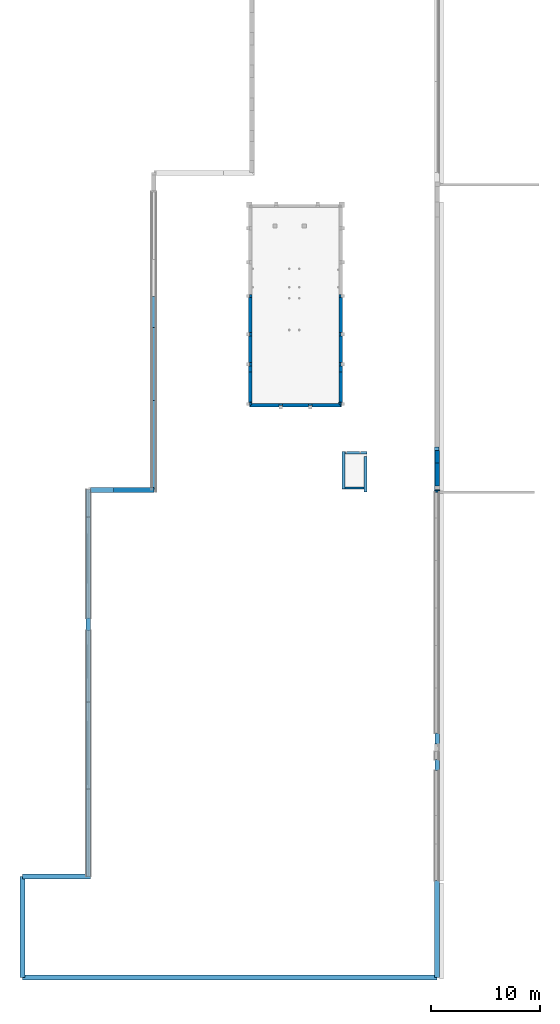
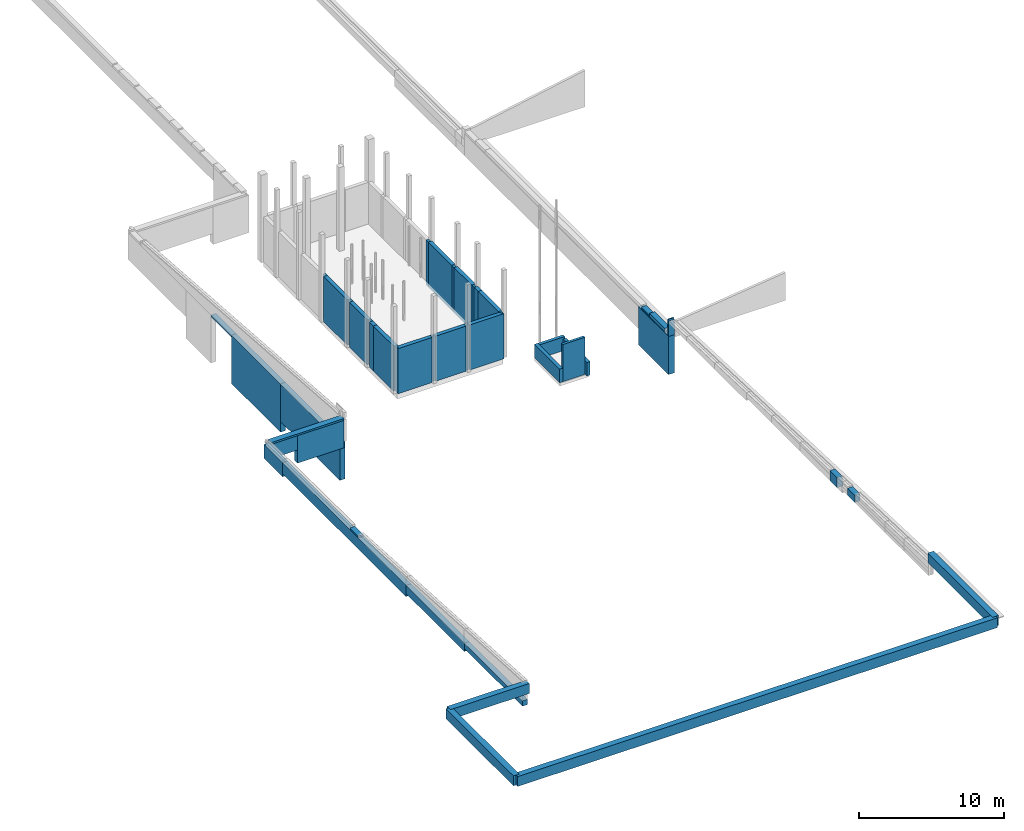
# One storey, part 2 of 17: 47 walls.
"""IFC2X3 building model written with IfcOpenShell, lengths in millimetres."""

from ifc_helpers import new_model, entity, si_unit, converted_unit, derived_unit, money_unit, direction, frame, origin_with_axes, place, context, subcontext, project, spatial, polyline, outline, extrude, material, layer, layer_set, layer_usage, type_object, element, save


model = new_model("IFC2X3")

# Units and contexts
model_context = context("Model", 3, precision=0.01, world=origin_with_axes(), true_north=direction((0.0, 1.0)))
body_context = subcontext(model_context, "Body", "Model", "MODEL_VIEW")
ifc_project = project(units=[si_unit("LENGTHUNIT", "METRE", prefix="MILLI"), si_unit("AREAUNIT", "SQUARE_METRE"), si_unit("VOLUMEUNIT", "CUBIC_METRE"), converted_unit("PLANEANGLEUNIT", "DEGREE", entity("IfcPlaneAngleMeasure", 0.0174532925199), si_unit("PLANEANGLEUNIT", "RADIAN"), dimensions=[0, 0, 0, 0, 0, 0, 0]), si_unit("SOLIDANGLEUNIT", "STERADIAN"), money_unit("EUR"), converted_unit("TIMEUNIT", "Year", entity("IfcTimeMeasure", 31556926.0), si_unit("TIMEUNIT", "SECOND"), dimensions=[0, 0, 1, 0, 0, 0, 0]), si_unit("MASSUNIT", "GRAM", prefix="KILO"), si_unit("THERMODYNAMICTEMPERATUREUNIT", "DEGREE_CELSIUS"), si_unit("LUMINOUSINTENSITYUNIT", "LUMEN"), si_unit("ENERGYUNIT", "JOULE", prefix="MEGA"), derived_unit("THERMALCONDUCTANCEUNIT", [(si_unit("POWERUNIT", "WATT"), 1), (si_unit("LENGTHUNIT", "METRE"), -1), (si_unit("THERMODYNAMICTEMPERATUREUNIT", "KELVIN"), -1)]), derived_unit("SPECIFICHEATCAPACITYUNIT", [(si_unit("ENERGYUNIT", "JOULE"), 1), (si_unit("MASSUNIT", "GRAM", prefix="KILO"), -1), (si_unit("THERMODYNAMICTEMPERATUREUNIT", "KELVIN"), -1)]), derived_unit("MASSDENSITYUNIT", [(si_unit("MASSUNIT", "GRAM", prefix="KILO"), 1), (si_unit("VOLUMEUNIT", "CUBIC_METRE"), -1)])], contexts=[model_context])

# Site, building, storey
site_placement = place(None, origin_with_axes())
site = spatial("IfcSite", under=ifc_project, at=site_placement, Name="Puškini 31, Narva", CompositionType="ELEMENT")
building_placement = place(site_placement, origin_with_axes())
building = spatial("IfcBuilding", under=site, at=building_placement, Name="Narva Riigigümnaasium", CompositionType="ELEMENT")
storey_placement = place(building_placement, frame((0.0, 0.0, -6800.0), z_axis=(0.0, 0.0, 1.0), x_axis=(1.0, 0.0, 0.0)))
storey = spatial("IfcBuildingStorey", under=building, at=storey_placement, Name="0.korrus -6.8", CompositionType="ELEMENT", Elevation=-6800.0)

# Walls
ifc_material_1 = material(Name="fassaadiplaat")
ifc_layer_1 = layer(ifc_material_1, 8.0, ventilated="UNKNOWN")
ifc_material_2 = material(Name="Salto-roovitus")
ifc_layer_2 = layer(ifc_material_2, 50.0, ventilated="UNKNOWN")
ifc_material_3 = material(Name="Salto-PIR soojustus")
ifc_layer_3 = layer(ifc_material_3, 50.0, ventilated="UNKNOWN")
ifc_layer_4 = layer(ifc_material_3, 150.0, ventilated="UNKNOWN")
ifc_material_4 = material(Name="Betoon element")
ifc_layer_5 = layer(ifc_material_4, 200.0, ventilated="UNKNOWN")
ifc_material_5 = material(Name="Salto-siseviimistlus-seinad")
ifc_layer_6 = layer(ifc_material_5, 10.0, ventilated="UNKNOWN")
ifc_layer_set_1 = layer_set([ifc_layer_1, ifc_layer_2, ifc_layer_3, ifc_layer_4, ifc_layer_5, ifc_layer_6], Name="G-VS-01")
ifc_layer_usage_1 = layer_usage(ifc_layer_set_1, "AXIS2", "NEGATIVE", 258.0)
wall_type_1 = type_object("IfcWallType", Name="G-VS-01 468", PredefinedType="NOTDEFINED")
wall_1_placement = place(storey_placement, frame((54200.000001, 194900.0, 3636.93976611), z_axis=(0.0, 0.0, 1.0), x_axis=(0.0, -1.0, 0.0)))
element("IfcWallStandardCase", 1, at=wall_1_placement, inside=storey, type_object=wall_type_1, material=ifc_layer_usage_1, Name="Sisesein", context=body_context, shape_type="SweptSolid", body=[
    extrude(outline(polyline([(0.0, -210.0), (85.0000008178, -210.0), (85.0000008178, 258.0), (0.0, 258.0), (0.0, -210.0)])), origin_with_axes(), (0.0, 0.0, 1.0), 1014.88228106),
])
ifc_layer_set_2 = layer_set([ifc_layer_5], Name="G-SS-01")
ifc_layer_usage_2 = layer_usage(ifc_layer_set_2, "AXIS2", "NEGATIVE", 0.0)
wall_type_2 = type_object("IfcWallType", Name="G-SS-01 200", PredefinedType="NOTDEFINED")
wall_2_placement = place(storey_placement, frame((40000.0000356, 202599.999952, -290.0), z_axis=(0.0, 0.0, 1.0), x_axis=(-1.0, 0.0, 0.0)))
element("IfcWallStandardCase", 2, at=wall_2_placement, inside=storey, type_object=wall_type_2, material=ifc_layer_usage_2, Name="Sisesein", context=body_context, shape_type="SweptSolid", body=[
    extrude(outline(polyline([(9.22071308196e-07, -200.0), (300.000033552, -200.0), (300.000033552, 0.0), (0.0, 0.0), (9.22071308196e-07, -200.0)])), origin_with_axes(), (0.0, 0.0, 1.0), 3790.0),
])
wall_3_placement = place(storey_placement, frame((42700.0000365, 202599.999974, -290.0), z_axis=(0.0, 0.0, 1.0), x_axis=(-1.0, 0.0, 0.0)))
element("IfcWallStandardCase", 3, at=wall_3_placement, inside=storey, type_object=wall_type_2, material=ifc_layer_usage_2, Name="Sisesein", context=body_context, shape_type="SweptSolid", body=[
    extrude(outline(polyline([(1.24511245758e-06, -200.0), (300.000044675, -200.0), (300.000043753, 0.0), (0.0, 0.0), (1.24511245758e-06, -200.0)])), origin_with_axes(), (0.0, 0.0, 1.0), 3790.0),
])
wall_4_placement = place(storey_placement, frame((45400.0000848, 212829.999926, -290.0), z_axis=(0.0, 0.0, 1.0), x_axis=(0.0, -1.0, 0.0)))
element("IfcWallStandardCase", 4, at=wall_4_placement, inside=storey, type_object=wall_type_2, material=ifc_layer_usage_2, Name="Sisesein", context=body_context, shape_type="SweptSolid", body=[
    extrude(outline(polyline([(0.0, -200.0), (299.999883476, -200.0), (299.999883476, 0.0), (0.0, 0.0), (0.0, -200.0)])), origin_with_axes(), (0.0, 0.0, 1.0), 3790.0),
])
wall_5_placement = place(storey_placement, frame((45400.0000848, 209299.999962, -290.0), z_axis=(0.0, 0.0, 1.0), x_axis=(0.0, -1.0, 0.0)))
element("IfcWallStandardCase", 5, at=wall_5_placement, inside=storey, type_object=wall_type_2, material=ifc_layer_usage_2, Name="Sisesein", context=body_context, shape_type="SweptSolid", body=[
    extrude(outline(polyline([(0.0, -200.0), (299.999998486, -200.0), (300.00000051, 0.0), (0.0, 0.0), (0.0, -200.0)])), origin_with_axes(), (0.0, 0.0, 1.0), 3790.0),
])
wall_6_placement = place(storey_placement, frame((45400.0000352, 206550.000007, -290.0), z_axis=(0.0, 0.0, 1.0), x_axis=(-1.12836302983e-08, -1.0, 0.0)))
element("IfcWallStandardCase", 6, at=wall_6_placement, inside=storey, type_object=wall_type_2, material=ifc_layer_usage_2, Name="Sisesein", context=body_context, shape_type="SweptSolid", body=[
    extrude(outline(polyline([(-8.95454377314e-07, -200.0), (300.000038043, -200.0), (300.000040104, 0.0), (0.0, 0.0), (-8.95454377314e-07, -200.0)])), origin_with_axes(), (0.0, 0.0, 1.0), 3790.0),
])
for number, where, z_axis, x_axis in (
    (7, (37000.0063704, 212530.000218, -290.0), (0.0, 0.0, 1.0), (-7.28230820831e-07, 1.0, 0.0)),
    (8, (37000.008941, 209000.000218, -290.0), (0.0, 0.0, 1.0), (-7.28230844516e-07, 1.0, 0.0)),
):
    element("IfcWallStandardCase", number, at=place(storey_placement, frame(where, z_axis=z_axis, x_axis=x_axis)), inside=storey, type_object=wall_type_2, material=ifc_layer_usage_2, Name="Sisesein", context=body_context, shape_type="SweptSolid", body=[
        extrude(outline(polyline([(0.0, -200.0), (300.0, -200.0), (300.0, 0.0), (0.0, 0.0), (0.0, -200.0)])), origin_with_axes(), (0.0, 0.0, 1.0), 3790.0),
    ])
wall_7_placement = place(storey_placement, frame((37000.0109437, 206250.000114, -290.0), z_axis=(0.0, 0.0, 1.0), x_axis=(-7.28230847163e-07, 1.0, 0.0)))
element("IfcWallStandardCase", 9, at=wall_7_placement, inside=storey, type_object=wall_type_2, material=ifc_layer_usage_2, Name="Sisesein", context=body_context, shape_type="SweptSolid", body=[
    extrude(outline(polyline([(0.0, -200.0), (299.999979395, -200.0), (299.999979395, 0.0), (0.0, 0.0), (0.0, -200.0)])), origin_with_axes(), (0.0, 0.0, 1.0), 3790.0),
])
wall_8_placement = place(storey_placement, frame((45399.9999996, 202900.000009, -290.0), z_axis=(0.0, 0.0, 1.0), x_axis=(0.0, -1.0, 0.0)))
element("IfcWallStandardCase", 10, at=wall_8_placement, inside=storey, type_object=wall_type_2, material=ifc_layer_usage_2, Name="Sisesein", context=body_context, shape_type="SweptSolid", body=[
    extrude(outline(polyline([(-5.22987875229e-07, -200.0), (100.000004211, -200.0), (400.000001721, 0.0), (0.0, 0.0), (-5.22987875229e-07, -200.0)])), origin_with_axes(), (0.0, 0.0, 1.0), 3790.0),
])
wall_9_placement = place(storey_placement, frame((37000.0136017, 202599.999808, -290.0), z_axis=(0.0, 0.0, 1.0), x_axis=(0.0, 1.0, 0.0)))
element("IfcWallStandardCase", 11, at=wall_9_placement, inside=storey, type_object=wall_type_2, material=ifc_layer_usage_2, Name="Sisesein", context=body_context, shape_type="SweptSolid", body=[
    extrude(outline(polyline([(200.000143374, -200.0), (300.000265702, -200.0), (300.000185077, 0.0), (-99.9998566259, 0.0), (200.000143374, -200.0)])), origin_with_axes(), (0.0, 0.0, 1.0), 3790.0),
])
ifc_material_6 = material(Name="Soojustus - EPS")
ifc_layer_7 = layer(ifc_material_6, 100.0, ventilated="UNKNOWN")
ifc_material_7 = material(Name="Salto-siseviimistlus")
ifc_layer_8 = layer(ifc_material_7, 0.0, ventilated="UNKNOWN")
ifc_layer_set_3 = layer_set([ifc_layer_7, ifc_layer_5, ifc_layer_8], Name="G-VS-09")
ifc_layer_usage_3 = layer_usage(ifc_layer_set_3, "AXIS2", "NEGATIVE", 100.0)
wall_type_3 = type_object("IfcWallType", Name="G-VS-09 300", PredefinedType="NOTDEFINED")
wall_10_placement = place(storey_placement, frame((39700.000002, 202599.999952, -290.0), z_axis=(0.0, 0.0, 1.0), x_axis=(-1.0, 0.0, 0.0)))
element("IfcWallStandardCase", 12, at=wall_10_placement, inside=storey, type_object=wall_type_3, material=ifc_layer_usage_3, Name="Sisesein", context=body_context, shape_type="SweptSolid", body=[
    extrude(outline(polyline([(0.0, -200.0), (2499.98640032, -200.0), (2699.98640032, 100.0), (0.0, 100.0), (0.0, -200.0)])), origin_with_axes(), (0.0, 0.0, 1.0), 3790.0),
])
wall_11_placement = place(storey_placement, frame((45399.9999995, 202600.000007, -290.0), z_axis=(0.0, 0.0, 1.0), x_axis=(-1.0, -1.2451077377e-08, 0.0)))
element("IfcWallStandardCase", 13, at=wall_11_placement, inside=storey, type_object=wall_type_3, material=ifc_layer_usage_3, Name="Sisesein", context=body_context, shape_type="SweptSolid", body=[
    extrude(outline(polyline([(199.999997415, -200.0), (2699.99996174, -200.0), (2699.99996361, 100.0), (1.15051790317e-06, 100.0), (199.999997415, -200.0)])), origin_with_axes(), (0.0, 0.0, 1.0), 3790.0),
])
wall_12_placement = place(storey_placement, frame((42399.9999928, 202599.999974, -290.0), z_axis=(0.0, 0.0, 1.0), x_axis=(-1.0, -9.2206777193e-09, 0.0)))
element("IfcWallStandardCase", 14, at=wall_12_placement, inside=storey, type_object=wall_type_3, material=ifc_layer_usage_3, Name="Sisesein", context=body_context, shape_type="SweptSolid", body=[
    extrude(outline(polyline([(-9.22071308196e-07, -200.0), (2399.99995627, -200.0), (2399.99995765, 100.0), (4.61035654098e-07, 100.0), (-9.22071308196e-07, -200.0)])), origin_with_axes(), (0.0, 0.0, 1.0), 3790.0),
])
wall_13_placement = place(storey_placement, frame((45400.0000848, 212530.000043, -290.0), z_axis=(0.0, 0.0, 1.0), x_axis=(0.0, -1.0, 0.0)))
element("IfcWallStandardCase", 15, at=wall_13_placement, inside=storey, type_object=wall_type_3, material=ifc_layer_usage_3, Name="Sisesein", context=body_context, shape_type="SweptSolid", body=[
    extrude(outline(polyline([(0.0, -200.0), (3230.00008038, -200.0), (3230.00008038, 100.0), (0.0, 100.0), (0.0, -200.0)])), origin_with_axes(), (0.0, 0.0, 1.0), 3790.0),
])
wall_14_placement = place(storey_placement, frame((45400.0000848, 208999.999962, -290.0), z_axis=(0.0, 0.0, 1.0), x_axis=(-2.02386385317e-08, -1.0, 0.0)))
element("IfcWallStandardCase", 16, at=wall_14_placement, inside=storey, type_object=wall_type_3, material=ifc_layer_usage_3, Name="Sisesein", context=body_context, shape_type="SweptSolid", body=[
    extrude(outline(polyline([(2.02382466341e-06, -200.0), (2449.99995562, -200.0), (2449.99995428, 100.0), (-1.01195496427e-06, 100.0), (2.02382466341e-06, -200.0)])), origin_with_axes(), (0.0, 0.0, 1.0), 3790.0),
])
wall_15_placement = place(storey_placement, frame((45400.0000318, 206249.999967, -290.0), z_axis=(0.0, 0.0, 1.0), x_axis=(-3.18963700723e-08, -1.0, 0.0)))
element("IfcWallStandardCase", 17, at=wall_15_placement, inside=storey, type_object=wall_type_3, material=ifc_layer_usage_3, Name="Sisesein", context=body_context, shape_type="SweptSolid", body=[
    extrude(outline(polyline([(2.06125605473e-06, -200.0), (549.999945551, -200.0), (549.999941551, 100.0), (-1.03065644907e-06, 100.0), (2.06125605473e-06, -200.0)])), origin_with_axes(), (0.0, 0.0, 1.0), 3790.0),
])
wall_16_placement = place(storey_placement, frame((37000.0087226, 209300.000218, -290.0), z_axis=(0.0, 0.0, 1.0), x_axis=(-7.28230821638e-07, 1.0, 0.0)))
element("IfcWallStandardCase", 18, at=wall_16_placement, inside=storey, type_object=wall_type_3, material=ifc_layer_usage_3, Name="Sisesein", context=body_context, shape_type="SweptSolid", body=[
    extrude(outline(polyline([(0.0, -200.0), (3230.0, -200.0), (3230.0, 100.0), (0.0, 100.0), (0.0, -200.0)])), origin_with_axes(), (0.0, 0.0, 1.0), 3790.0),
])
wall_17_placement = place(storey_placement, frame((37000.0107252, 206550.000093, -290.0), z_axis=(0.0, 0.0, 1.0), x_axis=(-7.28230844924e-07, 1.0, 0.0)))
element("IfcWallStandardCase", 19, at=wall_17_placement, inside=storey, type_object=wall_type_3, material=ifc_layer_usage_3, Name="Sisesein", context=body_context, shape_type="SweptSolid", body=[
    extrude(outline(polyline([(0.0, -200.0), (2450.00012547, -200.0), (2450.00012547, 100.0), (0.0, 100.0), (0.0, -200.0)])), origin_with_axes(), (0.0, 0.0, 1.0), 3790.0),
])
wall_18_placement = place(storey_placement, frame((37000.0136017, 202899.999993, -290.0), z_axis=(0.0, 0.0, 1.0), x_axis=(-8.06255612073e-07, 1.0, 0.0)))
element("IfcWallStandardCase", 20, at=wall_18_placement, inside=storey, type_object=wall_type_3, material=ifc_layer_usage_3, Name="Sisesein", context=body_context, shape_type="SweptSolid", body=[
    extrude(outline(polyline([(-8.06255684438e-05, -200.0), (2800.00002319, -200.0), (2800.00003489, 100.0), (4.03127558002e-05, 100.0), (-8.06255684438e-05, -200.0)])), origin_with_axes(), (0.0, 0.0, 1.0), 3790.0),
])
wall_19_placement = place(storey_placement, frame((37000.0113442, 205700.000024, -290.0), z_axis=(0.0, 0.0, 1.0), x_axis=(-7.28230842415e-07, 1.0, 0.0)))
element("IfcWallStandardCase", 21, at=wall_19_placement, inside=storey, type_object=wall_type_3, material=ifc_layer_usage_3, Name="Sisesein", context=body_context, shape_type="SweptSolid", body=[
    extrude(outline(polyline([(7.80246978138e-06, -200.0), (550.0000894, -200.0), (550.0000894, 100.0), (-3.90122067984e-06, 100.0), (7.80246978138e-06, -200.0)])), origin_with_axes(), (0.0, 0.0, 1.0), 3790.0),
])
wall_20_placement = place(storey_placement, frame((45400.0000143, 205700.000024, -290.0), z_axis=(0.0, 0.0, 1.0), x_axis=(-5.22976706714e-09, -1.0, 0.0)))
element("IfcWallStandardCase", 22, at=wall_20_placement, inside=storey, type_object=wall_type_3, material=ifc_layer_usage_3, Name="Sisesein", context=body_context, shape_type="SweptSolid", body=[
    extrude(outline(polyline([(-2.66661004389e-06, -200.0), (2800.00001575, -200.0), (2800.00001496, 100.0), (1.33337607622e-06, 100.0), (-2.66661004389e-06, -200.0)])), origin_with_axes(), (0.0, 0.0, 1.0), 3790.0),
])
ifc_material_8 = material(Name="Krohv")
ifc_layer_9 = layer(ifc_material_8, 10.0, ventilated="UNKNOWN")
ifc_layer_10 = layer(ifc_material_7, 10.0, ventilated="UNKNOWN")
ifc_layer_set_4 = layer_set([ifc_layer_9, ifc_layer_3, ifc_layer_4, ifc_layer_5, ifc_layer_10], Name="G-VS-02")
ifc_layer_usage_4 = layer_usage(ifc_layer_set_4, "AXIS2", "NEGATIVE", 210.0)
wall_type_4 = type_object("IfcWallType", Name="G-VS-02 420", PredefinedType="NOTDEFINED")
wall_21_placement = place(storey_placement, frame((54200.000001, 197361.868797, 3350.0), z_axis=(0.0, 0.0, 1.0), x_axis=(0.0, -1.0, 0.0)))
element("IfcWallStandardCase", 23, at=wall_21_placement, inside=storey, type_object=wall_type_4, material=ifc_layer_usage_4, Name="Sisesein", context=body_context, shape_type="SweptSolid", body=[
    extrude(outline(polyline([(0.0, -210.0), (2110.86879696, -210.0), (2110.86879696, 210.0), (0.0, 210.0), (0.0, -210.0)])), origin_with_axes(), (0.0, 0.0, 1.0), 286.939766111),
])
wall_22_placement = place(storey_placement, frame((54200.000001, 198473.510035, 3350.0), z_axis=(0.0, 0.0, 1.0), x_axis=(0.0, -1.0, 0.0)))
element("IfcWallStandardCase", 24, at=wall_22_placement, inside=storey, type_object=wall_type_4, material=ifc_layer_usage_4, Name="Sisesein", context=body_context, shape_type="SweptSolid", body=[
    extrude(outline(polyline([(0.0, -210.0), (1111.64123724, -210.0), (1111.64123724, 210.0), (0.0, 210.0), (0.0, -210.0)])), origin_with_axes(), (0.0, 0.0, 1.0), 150.0),
])
wall_23_placement = place(storey_placement, frame((54200.000001, 170110.151272, 4880.0), z_axis=(0.0, 0.0, 1.0), x_axis=(0.0, -1.0, 0.0)))
element("IfcWallStandardCase", 25, at=wall_23_placement, inside=storey, type_object=wall_type_4, material=ifc_layer_usage_4, Name="Sisesein", context=body_context, shape_type="SweptSolid", body=[
    extrude(outline(polyline([(0.0, -210.0), (1000.0, -210.0), (1000.0, 210.0), (0.0, 210.0), (0.0, -210.0)])), origin_with_axes(), (0.0, 0.0, 1.0), 600.0),
])
wall_24_placement = place(storey_placement, frame((54200.000001, 172560.151272, 4630.0), z_axis=(0.0, 0.0, 1.0), x_axis=(0.0, -1.0, 0.0)))
element("IfcWallStandardCase", 26, at=wall_24_placement, inside=storey, type_object=wall_type_4, material=ifc_layer_usage_4, Name="Sisesein", context=body_context, shape_type="SweptSolid", body=[
    extrude(outline(polyline([(0.0, -210.0), (1000.0, -210.0), (1000.0, 210.0), (0.0, 210.0), (0.0, -210.0)])), origin_with_axes(), (0.0, 0.0, 1.0), 850.0),
])
wall_25_placement = place(storey_placement, frame((22199.9999985, 181960.149991, 5330.0), z_axis=(0.0, 0.0, 1.0), x_axis=(0.0, 1.0, 0.0)))
element("IfcWallStandardCase", 27, at=wall_25_placement, inside=storey, type_object=wall_type_4, material=ifc_layer_usage_4, Name="Sisesein", context=body_context, shape_type="SweptSolid", body=[
    extrude(outline(polyline([(0.0, -210.0), (1150.0, -210.0), (1150.0, 210.0), (0.0, 210.0), (0.0, -210.0)])), origin_with_axes(), (0.0, 0.0, 1.0), 140.0),
])
ifc_material_9 = material(Name="Betoon_1")
ifc_layer_11 = layer(ifc_material_9, 250.0, ventilated="UNKNOWN")
ifc_layer_set_5 = layer_set([ifc_layer_9, ifc_layer_3, ifc_layer_4, ifc_layer_11, ifc_layer_8], Name="G-VS-05")
ifc_layer_usage_5 = layer_usage(ifc_layer_set_5, "AXIS2", "NEGATIVE", 210.0)
wall_type_5 = type_object("IfcWallType", Name="G-VS-05 460", PredefinedType="NOTDEFINED")
wall_26_placement = place(storey_placement, frame((54200.000001, 194815.0, 3350.0), z_axis=(0.0, 0.0, 1.0), x_axis=(0.0, -1.0, 0.0)))
element("IfcWallStandardCase", 28, at=wall_26_placement, inside=storey, type_object=wall_type_5, material=ifc_layer_usage_5, Name="Sisesein", context=body_context, shape_type="SweptSolid", body=[
    extrude(outline(polyline([(0.0, -250.0), (164.999999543, -250.0), (164.999999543, 210.0), (0.0, 210.0), (0.0, -250.0)])), origin_with_axes(), (0.0, 0.0, 1.0), 1301.82204717),
])
ifc_layer_usage_6 = layer_usage(ifc_layer_set_5, "AXIS2", "POSITIVE", -210.0)
wall_27_placement = place(storey_placement, frame((28200.0401775, 194900.0, 5330.0), z_axis=(0.0, 0.0, 1.0), x_axis=(-1.0, 0.0, 0.0)))
element("IfcWallStandardCase", 29, at=wall_27_placement, inside=storey, type_object=wall_type_5, material=ifc_layer_usage_6, Name="Sisesein", context=body_context, shape_type="SweptSolid", body=[
    extrude(outline(polyline([(0.0, -210.0), (5790.04017905, -210.0), (5790.04017905, 250.0), (0.0, 250.0), (0.0, -210.0)])), origin_with_axes(), (0.0, 0.0, 1.0), 150.0),
])
wall_28_placement = place(storey_placement, frame((54200.000001, 159000.0, 5970.0), z_axis=(0.0, 0.0, 1.0), x_axis=(0.0, -1.0, 0.0)))
element("IfcWallStandardCase", 30, at=wall_28_placement, inside=storey, type_object=wall_type_5, material=ifc_layer_usage_5, Name="Sisesein", context=body_context, shape_type="SweptSolid", body=[
    extrude(outline(polyline([(0.0, -250.0), (8899.99999997, -250.0), (8899.99999997, 210.0), (0.0, 210.0), (0.0, -250.0)])), origin_with_axes(), (0.0, 0.0, 1.0), 830.0),
])
wall_29_placement = place(storey_placement, frame((16130.0, 150100.0, 5970.0), z_axis=(0.0, 0.0, 1.0), x_axis=(1.0, 0.0, 0.0)))
element("IfcWallStandardCase", 31, at=wall_29_placement, inside=storey, type_object=wall_type_5, material=ifc_layer_usage_6, Name="Sisesein", context=body_context, shape_type="SweptSolid", body=[
    extrude(outline(polyline([(0.0, -210.0), (38070.0, -210.0), (38070.0, 250.0), (0.0, 250.0), (0.0, -210.0)])), origin_with_axes(), (0.0, 0.0, 1.0), 830.0),
])
wall_30_placement = place(storey_placement, frame((16130.0, 159400.0, 5970.0), z_axis=(0.0, 0.0, 1.0), x_axis=(0.0, -1.0, 0.0)))
element("IfcWallStandardCase", 32, at=wall_30_placement, inside=storey, type_object=wall_type_5, material=ifc_layer_usage_6, Name="Sisesein", context=body_context, shape_type="SweptSolid", body=[
    extrude(outline(polyline([(0.0, -210.0), (9300.0, -210.0), (9300.0, 250.0), (0.0, 250.0), (0.0, -210.0)])), origin_with_axes(), (0.0, 0.0, 1.0), 830.0),
])
wall_31_placement = place(storey_placement, frame((22399.9999985, 159400.0, 5970.0), z_axis=(0.0, 0.0, 1.0), x_axis=(-1.0, 0.0, 0.0)))
element("IfcWallStandardCase", 33, at=wall_31_placement, inside=storey, type_object=wall_type_5, material=ifc_layer_usage_6, Name="Sisesein", context=body_context, shape_type="SweptSolid", body=[
    extrude(outline(polyline([(0.0, -210.0), (6269.99999845, -210.0), (6269.99999845, 250.0), (0.0, 250.0), (0.0, -210.0)])), origin_with_axes(), (0.0, 0.0, 1.0), 830.0),
])
ifc_layer_12 = layer(ifc_material_3, 200.0, ventilated="UNKNOWN")
ifc_layer_13 = layer(ifc_material_9, 200.0, ventilated="UNKNOWN")
ifc_layer_set_6 = layer_set([ifc_layer_12, ifc_layer_13, ifc_layer_8], Name="G-VS-07")
ifc_layer_usage_7 = layer_usage(ifc_layer_set_6, "AXIS2", "POSITIVE", -200.0)
wall_type_6 = type_object("IfcWallType", Name="G-VS-07 400", PredefinedType="NOTDEFINED")
wall_32_placement = place(storey_placement, frame((22200.0, 175400.0, 4630.0), z_axis=(0.0, 0.0, 1.0), x_axis=(0.0, -1.0, 0.0)))
element("IfcWallStandardCase", 34, at=wall_32_placement, inside=storey, type_object=wall_type_6, material=ifc_layer_usage_7, Name="Sisesein", context=body_context, shape_type="SweptSolid", body=[
    extrude(outline(polyline([(0.0, -200.0), (7999.9998762, -200.0), (7999.9998762, 200.0), (0.0, 200.0), (0.0, -200.0)])), origin_with_axes(), (0.0, 0.0, 1.0), 700.0),
])
wall_33_placement = place(storey_placement, frame((22200.0, 192379.999884, 4380.0), z_axis=(0.0, 0.0, 1.0), x_axis=(0.0, -1.0, 0.0)))
element("IfcWallStandardCase", 35, at=wall_33_placement, inside=storey, type_object=wall_type_6, material=ifc_layer_usage_7, Name="Sisesein", context=body_context, shape_type="SweptSolid", body=[
    extrude(outline(polyline([(0.0, -200.0), (16979.9998842, -200.0), (16979.9998842, 200.0), (0.0, 200.0), (0.0, -200.0)])), origin_with_axes(), (0.0, 0.0, 1.0), 950.0),
])
wall_34_placement = place(storey_placement, frame((28200.0401775, 209799.65095, -700.0), z_axis=(0.0, 0.0, 1.0), x_axis=(0.0, -1.0, 0.0)))
element("IfcWallStandardCase", 36, at=wall_34_placement, inside=storey, type_object=wall_type_6, material=ifc_layer_usage_7, Name="Sisesein", context=body_context, shape_type="SweptSolid", body=[
    extrude(outline(polyline([(0.0, -200.0), (6739.65094447, -200.0), (6739.65094447, 200.0), (0.0, 200.0), (0.0, -200.0)])), origin_with_axes(), (0.0, 0.0, 1.0), 4050.0),
])
wall_35_placement = place(storey_placement, frame((28200.0401775, 212620.000001, 3190.0), z_axis=(0.0, 0.0, 1.0), x_axis=(0.0, -1.0, 0.0)))
element("IfcWallStandardCase", 37, at=wall_35_placement, inside=storey, type_object=wall_type_6, material=ifc_layer_usage_7, Name="Sisesein", context=body_context, shape_type="SweptSolid", body=[
    extrude(outline(polyline([(0.0, -200.0), (2820.34905691, -200.0), (2820.34905691, 200.0), (0.0, 200.0), (0.0, -200.0)])), origin_with_axes(), (0.0, 0.0, 1.0), 160.0),
])
wall_36_placement = place(storey_placement, frame((22200.0, 167400.000124, 4880.0), z_axis=(0.0, 0.0, 1.0), x_axis=(0.0, -1.0, 0.0)))
element("IfcWallStandardCase", 38, at=wall_36_placement, inside=storey, type_object=wall_type_6, material=ifc_layer_usage_7, Name="Sisesein", context=body_context, shape_type="SweptSolid", body=[
    extrude(outline(polyline([(0.0, -200.0), (8000.0001238, -200.0), (8000.0001238, 200.0), (0.0, 200.0), (0.0, -200.0)])), origin_with_axes(), (0.0, 0.0, 1.0), 450.0),
])
wall_37_placement = place(storey_placement, frame((22200.0, 194900.0, 4130.0), z_axis=(0.0, 0.0, 1.0), x_axis=(0.0, -1.0, 0.0)))
element("IfcWallStandardCase", 39, at=wall_37_placement, inside=storey, type_object=wall_type_6, material=ifc_layer_usage_7, Name="Sisesein", context=body_context, shape_type="SweptSolid", body=[
    extrude(outline(polyline([(0.0, -200.0), (2520.0001158, -200.0), (2520.0001158, 200.0), (0.0, 200.0), (0.0, -200.0)])), origin_with_axes(), (0.0, 0.0, 1.0), 1200.0),
])
wall_38_placement = place(storey_placement, frame((28200.0401775, 203060.0, 200.0), z_axis=(0.0, 0.0, 1.0), x_axis=(0.0, -1.0, 0.0)))
element("IfcWallStandardCase", 40, at=wall_38_placement, inside=storey, type_object=wall_type_6, material=ifc_layer_usage_7, Name="Sisesein", context=body_context, shape_type="SweptSolid", body=[
    extrude(outline(polyline([(0.0, -200.0), (8160.0, -200.0), (8160.0, 200.0), (0.0, 200.0), (0.0, -200.0)])), origin_with_axes(), (0.0, 0.0, 1.0), 3150.0),
])
ifc_layer_set_7 = layer_set([ifc_layer_12, ifc_layer_11, ifc_layer_8], Name="G-VS-06")
ifc_layer_usage_8 = layer_usage(ifc_layer_set_7, "AXIS2", "POSITIVE", -200.0)
wall_type_7 = type_object("IfcWallType", Name="G-VS-06 450", PredefinedType="NOTDEFINED")
wall_39_placement = place(storey_placement, frame((28199.2484765, 194900.0, 3030.0), z_axis=(0.0, 0.0, 1.0), x_axis=(-1.0, 0.0, 0.0)))
element("IfcWallStandardCase", 41, at=wall_39_placement, inside=storey, type_object=wall_type_7, material=ifc_layer_usage_8, Name="Sisesein", context=body_context, shape_type="SweptSolid", body=[
    extrude(outline(polyline([(0.0, -200.0), (3699.24847655, -200.0), (3699.24847655, 250.0), (0.0, 250.0), (0.0, -200.0)])), origin_with_axes(), (0.0, 0.0, 1.0), 2300.0),
])
wall_40_placement = place(storey_placement, frame((24500.0, 194900.0, 4130.0), z_axis=(0.0, 0.0, 1.0), x_axis=(-1.0, 0.0, 0.0)))
element("IfcWallStandardCase", 42, at=wall_40_placement, inside=storey, type_object=wall_type_7, material=ifc_layer_usage_8, Name="Sisesein", context=body_context, shape_type="SweptSolid", body=[
    extrude(outline(polyline([(0.0, -200.0), (2300.0, -200.0), (2300.0, 250.0), (0.0, 250.0), (0.0, -200.0)])), origin_with_axes(), (0.0, 0.0, 1.0), 1200.0),
])
ifc_layer_usage_9 = layer_usage(ifc_layer_set_7, "AXIS2", "NEGATIVE", 200.0)
wall_41_placement = place(storey_placement, frame((54200.000001, 198820.0, 150.0), z_axis=(0.0, 0.0, 1.0), x_axis=(0.0, -1.0, 0.0)))
element("IfcWallStandardCase", 43, at=wall_41_placement, inside=storey, type_object=wall_type_7, material=ifc_layer_usage_9, Name="Sisesein", context=body_context, shape_type="SweptSolid", body=[
    extrude(outline(polyline([(0.0, -250.0), (4170.0, -250.0), (4170.0, 200.0), (0.0, 200.0), (0.0, -250.0)])), origin_with_axes(), (0.0, 0.0, 1.0), 3200.0),
])
ifc_material_10 = material(Name="KON-04_Betoon - Konstuktsioon")
ifc_layer_14 = layer(ifc_material_10, 200.0, ventilated="UNKNOWN")
ifc_layer_set_8 = layer_set([ifc_layer_14], Name="KON-04_Betoon - Konstuktsioon 200")
ifc_layer_usage_10 = layer_usage(ifc_layer_set_8, "AXIS2", "NEGATIVE", 200.0)
wall_type_8 = type_object("IfcWallType", Name="KON-04_Betoon - Konstuktsioon 200", PredefinedType="NOTDEFINED")
wall_42_placement = place(storey_placement, frame((47499.9999928, 195150.0, 2250.00002253), z_axis=(0.0, 0.0, 1.0), x_axis=(-1.0, 0.0, 0.0)))
element("IfcWallStandardCase", 44, at=wall_42_placement, inside=storey, type_object=wall_type_8, material=ifc_layer_usage_10, Name="Sisesein", context=body_context, shape_type="SweptSolid", body=[
    extrude(outline(polyline([(0.0, 0.0), (1770.0, 0.0), (1770.0, 200.0), (0.0, 200.0), (0.0, 0.0)])), origin_with_axes(), (0.0, 0.0, 1.0), 3119.99997747),
])
ifc_layer_15 = layer(ifc_material_10, 250.0, ventilated="UNKNOWN")
ifc_layer_set_9 = layer_set([ifc_layer_15], Name="KON-04_Betoon - Konstuktsioon 250")
ifc_layer_usage_11 = layer_usage(ifc_layer_set_9, "AXIS2", "NEGATIVE", 250.0)
wall_type_9 = type_object("IfcWallType", Name="KON-04_Betoon - Konstuktsioon 250", PredefinedType="NOTDEFINED")
wall_43_placement = place(storey_placement, frame((45729.9999928, 194950.0, 2250.00002253), z_axis=(0.0, 0.0, 1.0), x_axis=(0.0, 1.0, 0.0)))
element("IfcWallStandardCase", 45, at=wall_43_placement, inside=storey, type_object=wall_type_9, material=ifc_layer_usage_11, Name="Sisesein", context=body_context, shape_type="SweptSolid", body=[
    extrude(outline(polyline([(0.0, 0.0), (3459.99999976, 0.0), (3459.99999976, 250.0), (0.0, 250.0), (0.0, 0.0)])), origin_with_axes(), (0.0, 0.0, 1.0), 1139.99997747),
])
wall_44_placement = place(storey_placement, frame((45729.9999928, 198160.0, 2250.00002253), z_axis=(0.0, 0.0, 1.0), x_axis=(1.0, 0.0, 0.0)))
element("IfcWallStandardCase", 46, at=wall_44_placement, inside=storey, type_object=wall_type_9, material=ifc_layer_usage_11, Name="Sisesein", context=body_context, shape_type="SweptSolid", body=[
    extrude(outline(polyline([(0.0, 0.0), (2020.0, 0.0), (2020.0, 250.0), (0.0, 250.0), (0.0, 0.0)])), origin_with_axes(), (0.0, 0.0, 1.0), 1139.99997747),
])
wall_45_placement = place(storey_placement, frame((47749.9999928, 194700.0, 2250.00002253), z_axis=(0.0, 0.0, 1.0), x_axis=(0.0, 1.0, 0.0)))
element("IfcWallStandardCase", 47, at=wall_45_placement, inside=storey, type_object=wall_type_9, material=ifc_layer_usage_11, Name="Sisesein", context=body_context, shape_type="SweptSolid", body=[
    extrude(outline(polyline([(0.0, 0.0), (3259.99999988, 0.0), (3259.99999988, 250.0), (0.0, 250.0), (0.0, 0.0)])), origin_with_axes(), (0.0, 0.0, 1.0), 1139.99997747),
])

save(model, "model.ifc")
